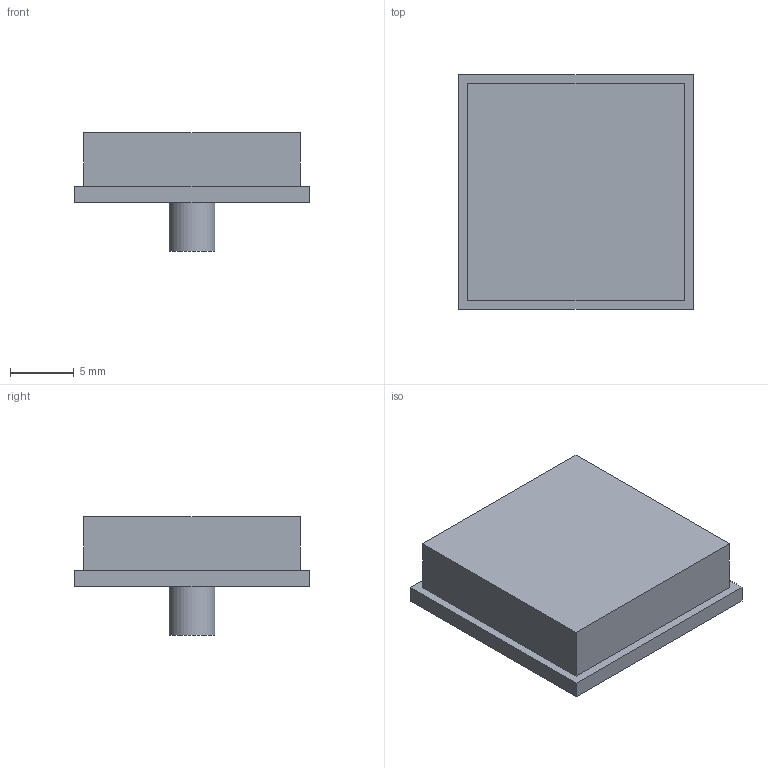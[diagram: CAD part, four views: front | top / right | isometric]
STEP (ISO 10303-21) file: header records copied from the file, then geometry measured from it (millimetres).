
FILE_DESCRIPTION(/* description */ ('STEP AP242 Edition 2','CAx-IF Rec.Pracs.---Representation and Presentation of Product Manufacturing Information (PMI)---4.0---2014-10-13','CAx-IF Rec.Pracs.---3D Tessellated Geometry---0.4---2014-09-14','2;1','CAx-IF Rec.Pracs.---User Defined Attributes---1.5---2016-08-15'),/* implementation_level */ '2;1');
FILE_NAME(/* name */ 'Part Studio 1 - Keycap 6',/* time_stamp */ '2026-11-26T14:54:19Z',/* author */ (''),/* organization */ (''),/* preprocessor_version */ 'ST-DEVELOPER v20',/* originating_system */ 'ONSHAPE BY PTC INC, 1.224',/* authorisation */ ' ');
FILE_SCHEMA (('AP242_MANAGED_MODEL_BASED_3D_ENGINEERING_MIM_LF { 1 0 10303 442 3 1 4 }'));
Length unit declared in the file: metre
Products named in the file (1): Keycap 6
Bounding box: 18.4 x 18.4 x 9.3 mm (x, y, z)
Volume: 1692.6 mm3; surface area: 1101.4 mm2
Topology: 1 solids, 1 shells, 13 faces, 27 edges, 18 vertices
Faces by surface type: plane 12, cylinder 1
Full cylindrical faces by diameter (mm): 3.6 x1
Entity records: 360 total; most frequent: CARTESIAN_POINT 58, DIRECTION 56, ORIENTED_EDGE 52, EDGE_CURVE 26, LINE 24, VECTOR 24, VERTEX_POINT 18, EDGE_LOOP 16
